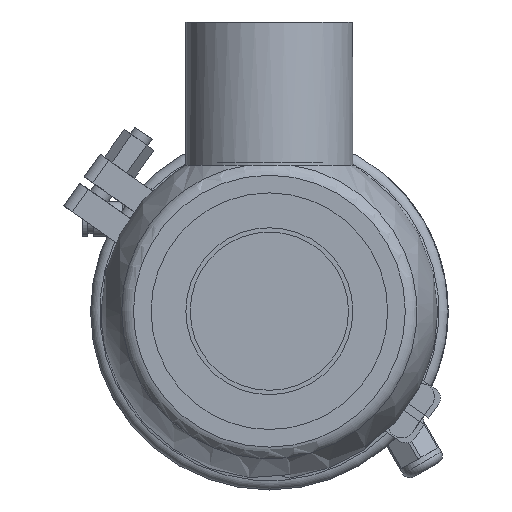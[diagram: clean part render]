
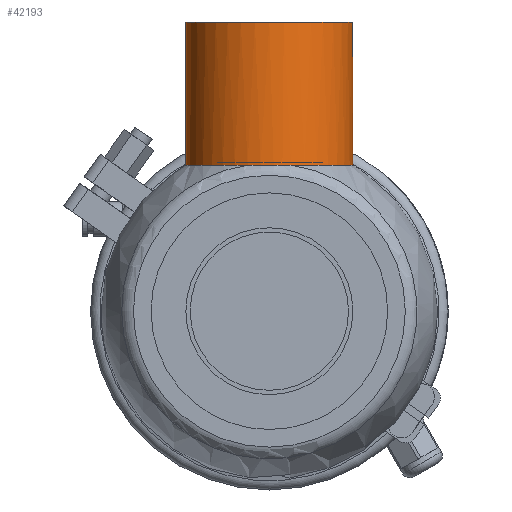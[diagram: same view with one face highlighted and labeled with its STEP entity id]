
A CAD part, front view. The second image highlights one B-rep face of the part: STEP entity #42193.
In plain terms, the highlighted cylindrical face has radius 31.75 mm (diameter 63.5 mm), a full revolution.
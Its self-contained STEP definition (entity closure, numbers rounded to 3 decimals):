
#375 = DIRECTION ( 'NONE',  ( -1., 0., 0. ) ) ;
#1593 = VERTEX_POINT ( 'NONE', #25896 ) ;
#2709 = DIRECTION ( 'NONE',  ( 1., 0., 0. ) ) ;
#4297 = CIRCLE ( 'NONE', #18100, 31.75 ) ;
#4927 = FACE_OUTER_BOUND ( 'NONE', #60238, .T. ) ;
#6164 = CARTESIAN_POINT ( 'NONE',  ( 110., 0., 0. ) ) ;
#6742 = CARTESIAN_POINT ( 'NONE',  ( 55.468, -31.638, -2.759 ) ) ;
#6937 = CARTESIAN_POINT ( 'NONE',  ( 55.569, -30.657, 8.258 ) ) ;
#6963 = B_SPLINE_CURVE_WITH_KNOTS ( 'NONE', 3,
 ( #54519, #12322, #26464, #34019, #29374, #48947, #39752, #6742, #16908, #16314, #40046, #53921 ),
 .UNSPECIFIED., .F., .F.,
 ( 4, 2, 2, 2, 2, 4 ),
 ( 0., 0.004, 0.008, 0.01, 0.012, 0.017 ),
 .UNSPECIFIED. ) ;
#9747 = EDGE_LOOP ( 'NONE', ( #17172 ) ) ;
#12303 = DIRECTION ( 'NONE',  ( 0., 0., 1. ) ) ;
#12322 = CARTESIAN_POINT ( 'NONE',  ( 55.569, -31.022, 6.904 ) ) ;
#16314 = CARTESIAN_POINT ( 'NONE',  ( 55.532, -31.295, -5.534 ) ) ;
#16324 = DIRECTION ( 'NONE',  ( -1., 0., 0. ) ) ;
#16908 = CARTESIAN_POINT ( 'NONE',  ( 55.483, -31.569, -3.456 ) ) ;
#17172 = ORIENTED_EDGE ( 'NONE', *, *, #19356, .T. ) ;
#17999 = ORIENTED_EDGE ( 'NONE', *, *, #26059, .T. ) ;
#18100 = AXIS2_PLACEMENT_3D ( 'NONE', #6164, #16324, #24970 ) ;
#19356 = EDGE_CURVE ( 'NONE', #31226, #31226, #4297, .T. ) ;
#24970 = DIRECTION ( 'NONE',  ( 0., 0., 1. ) ) ;
#25896 = CARTESIAN_POINT ( 'NONE',  ( 55.569, -30.657, -8.258 ) ) ;
#26059 = EDGE_CURVE ( 'NONE', #38447, #1593, #6963, .T. ) ;
#26464 = CARTESIAN_POINT ( 'NONE',  ( 55.532, -31.293, 5.541 ) ) ;
#28067 = DIRECTION ( 'NONE',  ( 0., 0., 1. ) ) ;
#29374 = CARTESIAN_POINT ( 'NONE',  ( 55.442, -31.749, 1.419 ) ) ;
#31226 = VERTEX_POINT ( 'NONE', #49955 ) ;
#33944 = CYLINDRICAL_SURFACE ( 'NONE', #55616, 31.75 ) ;
#34019 = CARTESIAN_POINT ( 'NONE',  ( 55.468, -31.657, 2.799 ) ) ;
#38447 = VERTEX_POINT ( 'NONE', #6937 ) ;
#39752 = CARTESIAN_POINT ( 'NONE',  ( 55.447, -31.729, -1.361 ) ) ;
#40046 = CARTESIAN_POINT ( 'NONE',  ( 55.569, -31.022, -6.903 ) ) ;
#42193 = ADVANCED_FACE ( 'NONE', ( #4927, #42904 ), #33944, .T. ) ;
#42505 = CIRCLE ( 'NONE', #46396, 31.75 ) ;
#42904 = FACE_OUTER_BOUND ( 'NONE', #9747, .T. ) ;
#46396 = AXIS2_PLACEMENT_3D ( 'NONE', #55117, #2709, #12303 ) ;
#46734 = ORIENTED_EDGE ( 'NONE', *, *, #54042, .T. ) ;
#48947 = CARTESIAN_POINT ( 'NONE',  ( 55.442, -31.751, -0.664 ) ) ;
#49955 = CARTESIAN_POINT ( 'NONE',  ( 110., 0., 31.75 ) ) ;
#51457 = CARTESIAN_POINT ( 'NONE',  ( 0., 0., 0. ) ) ;
#53921 = CARTESIAN_POINT ( 'NONE',  ( 55.569, -30.657, -8.258 ) ) ;
#54042 = EDGE_CURVE ( 'NONE', #1593, #38447, #42505, .T. ) ;
#54519 = CARTESIAN_POINT ( 'NONE',  ( 55.569, -30.657, 8.258 ) ) ;
#55117 = CARTESIAN_POINT ( 'NONE',  ( 55.569, 0., 0. ) ) ;
#55616 = AXIS2_PLACEMENT_3D ( 'NONE', #51457, #375, #28067 ) ;
#60238 = EDGE_LOOP ( 'NONE', ( #46734, #17999 ) ) ;
